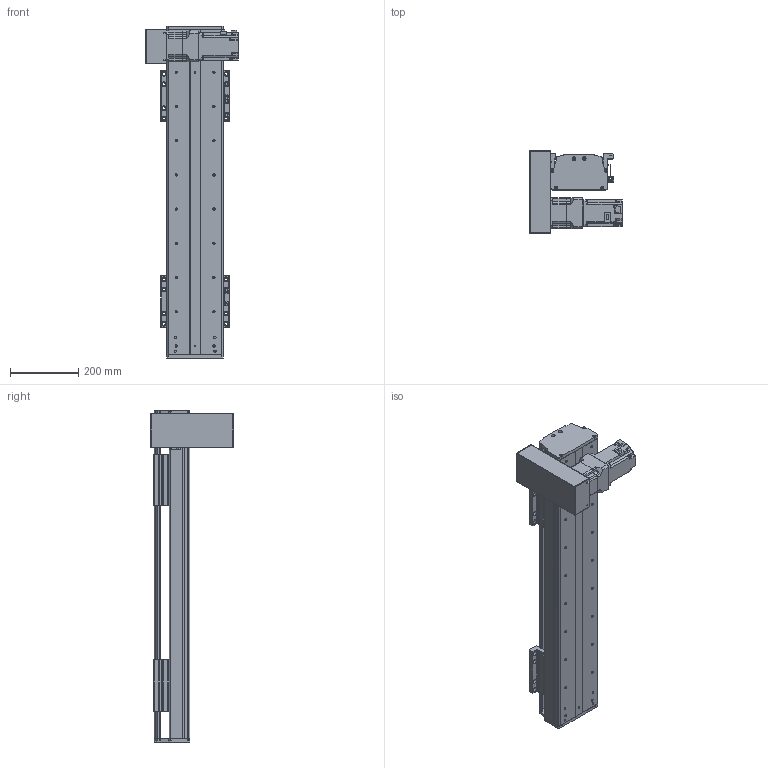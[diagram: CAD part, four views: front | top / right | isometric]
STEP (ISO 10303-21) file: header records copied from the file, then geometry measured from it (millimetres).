
FILE_DESCRIPTION(/* description */ (''),/* implementation_level */ '2;1');
FILE_NAME(/* name */ 'C:\Users\PC\Desktop\3D도면\STEP\DSB165-DL7G-W0600-R.stp',/* time_stamp */ '2018-06-25T15:41:16+09:00',/* author */ ('PC'),/* organization */ (''),/* preprocessor_version */ 'ST-DEVELOPER v16.5',/* originating_system */ 'Autodesk Inventor 2017',/* authorisation */ '');
FILE_SCHEMA (('AUTOMOTIVE_DESIGN { 1 0 10303 214 3 1 1 }'));
Length unit declared in the file: millimetre
Products named in the file (12): DSB165-L; DSR165-BASE_S; hg-kr73_; ab0901-p0401300102; 11-DBS165 BELT COVER; DBS165-COVER; DBS165-COVER_1; DBS165-UP COVER; DBS165-TABLE(MSA20S); DSR126-SENSOR DOG; SENSOR BRACKET(EE-SX674A); pm-y65_step
Assembly tree (16 placements, depth 2):
  DSB165-L
    DSR165-BASE_S
    hg-kr73_
    ab0901-p0401300102
    11-DBS165 BELT COVER
    DBS165-COVER
    DBS165-COVER_1
    DBS165-UP COVER
    DBS165-TABLE(MSA20S)  x2
    DSR126-SENSOR DOG
    pm-y65_step  x3
    SENSOR BRACKET(EE-SX674A)  x3
Bounding box: 270 x 242 x 970 mm (x, y, z)
Volume: 7039702 mm3; surface area: 1620120.8 mm2
Topology: 17 solids, 22 shells, 1659 faces, 4455 edges, 2940 vertices
Faces by surface type: plane 926, cylinder 615, cone 106, sphere 8, torus 4
Full cylindrical faces by diameter (mm): 2.459 x20, 3.5 x6, 4.134 x42, 4.5 x18, 5 x27, 5.5 x36, 5.9 x4, 6 x8, 6.6 x14, 6.647 x34, 6.8 x1, 7 x4, 7.6 x4, 8 x1, 8.4 x1, 8.5 x24, 8.7 x1, 9.5 x32, 11 x6, 14 x16, 19 x1, 22 x1, 24 x1, 25 x1, 28 x1, 67 x1, 70 x2, 80 x1
Entity records: 35309 total; most frequent: DIRECTION 6236, CARTESIAN_POINT 6055, ORIENTED_EDGE 5518, EDGE_CURVE 2764, AXIS2_PLACEMENT_3D 2288, VERTEX_POINT 1969, EDGE_LOOP 1715, LINE 1660
